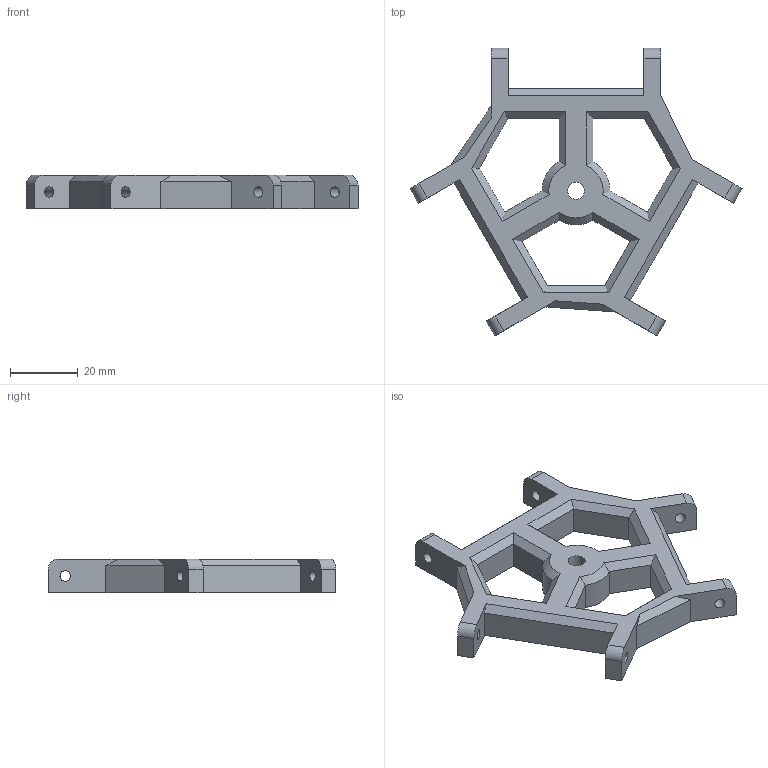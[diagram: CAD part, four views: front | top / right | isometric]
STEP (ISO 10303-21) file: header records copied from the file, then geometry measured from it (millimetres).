
FILE_DESCRIPTION(/* description */ (''),/* implementation_level */ '2;1');
FILE_NAME(/* name */ 'D:\3D печать\Мои проекты\Archy MK 2\STEP\MK3\пластина регулировки плечь.stp',/* time_stamp */ '2019-07-18T21:38:19+06:00',/* author */ ('Пользователь'),/* organization */ (''),/* preprocessor_version */ 'ST-DEVELOPER v16.5',/* originating_system */ 'Autodesk Inventor 2017',/* authorisation */ '');
FILE_SCHEMA (('AUTOMOTIVE_DESIGN { 1 0 10303 214 3 1 1 }'));
Length unit declared in the file: millimetre
Products named in the file (1): пластина \X2\044004350433
0443043B04380440043E0432043A0438\X0\ плечь
Bounding box: 97.77 x 84.67 x 10 mm (x, y, z)
Volume: 25125.9 mm3; surface area: 11366.7 mm2
Topology: 1 solids, 1 shells, 80 faces, 216 edges, 138 vertices
Faces by surface type: plane 61, cylinder 16, cone 3
Full cylindrical faces by diameter (mm): 3.1 x6, 5 x1
Entity records: 2506 total; most frequent: CARTESIAN_POINT 446, ORIENTED_EDGE 418, DIRECTION 400, EDGE_CURVE 209, LINE 168, VECTOR 168, VERTEX_POINT 138, AXIS2_PLACEMENT_3D 116
